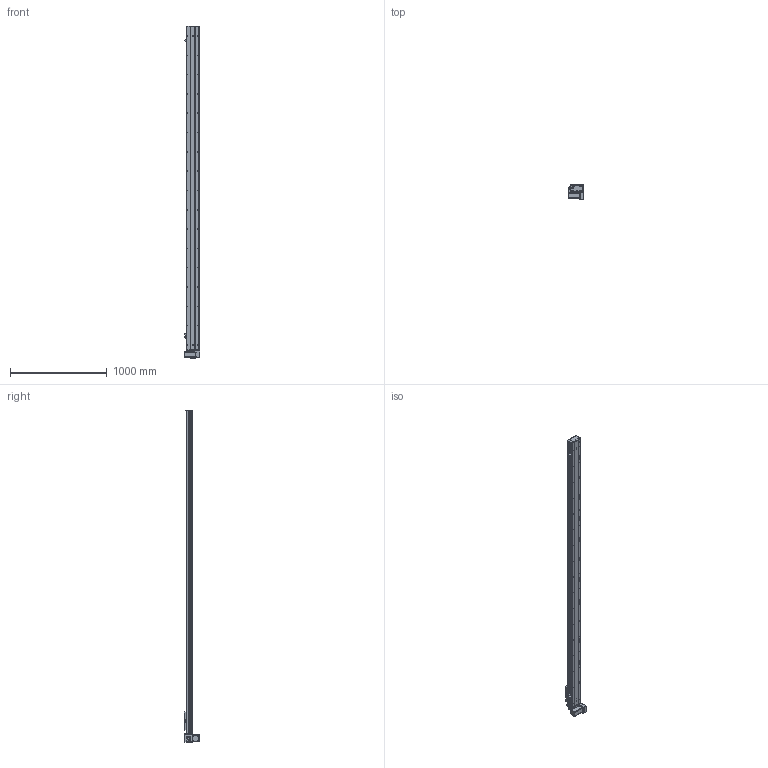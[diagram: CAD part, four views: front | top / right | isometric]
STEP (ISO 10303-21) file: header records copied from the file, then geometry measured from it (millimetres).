
FILE_DESCRIPTION (( 'STEP AP203' ), '1' );
FILE_NAME ('Y135CB-D90-S3050-BM-P400W.STEP', '2020-02-19T02:42:37', ( '微软用户' ), ( '微软中国' ), 'SwSTEP 2.0', 'SolidWorks 2017', '' );
FILE_SCHEMA (( 'CONFIG_CONTROL_DESIGN' ));
Length unit declared in the file: millimetre
Products named in the file (18): 5CB --掛极耜裔啣-; C-詩湍揤踡え-陔; 5C--俋欶; Y135CB-耜裔; 135CB--詩湍-CE; C-雄赽釱--; 135CB---遴掛极.-; Y100-135俋离換覜ん--; Y10B--々湍喘謫眊--666; 35CB---喘謫眊楊擘啣; Y135C-陔俋离換覜結え-; 00B-俋欶BM--; 0B-埴倛裔啣; Y10B-耜蚾蟀諉啣----; 0B-源倛裔啣; Y135CB-D90-S3050-BM-P400W; 0B-萇儂楊擘啣; san松下电机400不带刹车----
Assembly tree (21 placements, depth 2):
  Y135CB-D90-S3050-BM-P400W
    Y135CB-耜裔
    135CB---遴掛极.-
    35CB---喘謫眊楊擘啣
    0B-埴倛裔啣
    0B-源倛裔啣
    0B-萇儂楊擘啣
    san松下电机400不带刹车----
    5CB --掛极耜裔啣-  x2
    C-詩湍揤踡え-陔  x2
    135CB--詩湍-CE
    Y100-135俋离換覜ん--  x3
    Y135C-陔俋离換覜結え-
    5C--俋欶
    C-雄赽釱--
    Y10B--々湍喘謫眊--666
    00B-俋欶BM--
    Y10B-耜蚾蟀諉啣----
Bounding box: 157 x 163.3 x 3438 mm (x, y, z)
Volume: 9710177.7 mm3; surface area: 3853364.7 mm2
Topology: 21 solids, 21 shells, 985 faces, 2707 edges, 1794 vertices
Faces by surface type: cylinder 513, plane 456, cone 16
Entity records: 31369 total; most frequent: CARTESIAN_POINT 5252, DIRECTION 5215, ORIENTED_EDGE 4890, EDGE_CURVE 2445, AXIS2_PLACEMENT_3D 1917, VERTEX_POINT 1622, LINE 1381, VECTOR 1381
